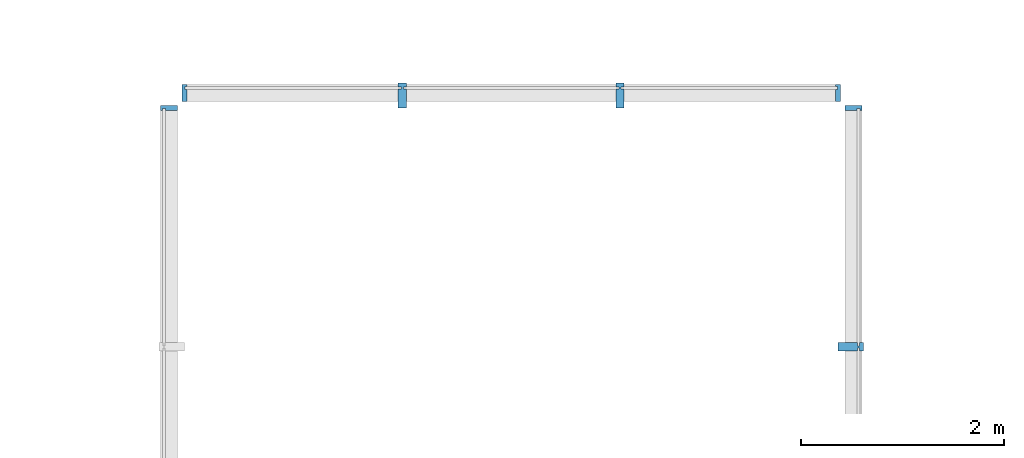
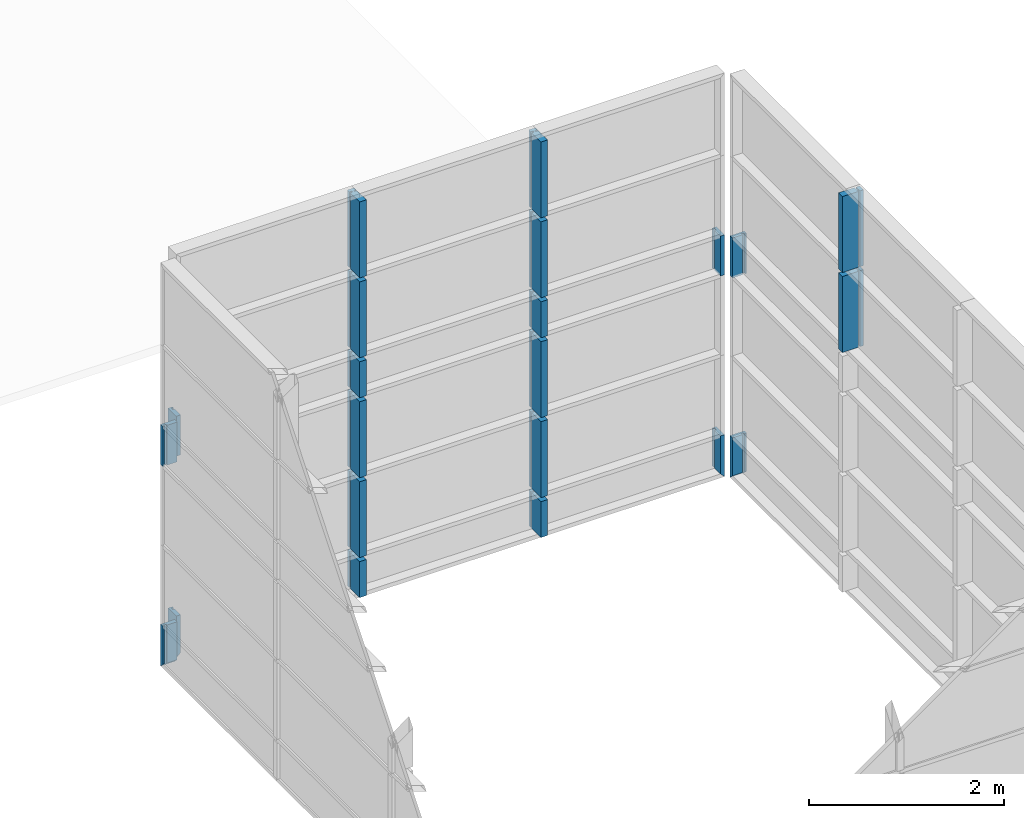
# One storey, part 15 of 19: 22 building element parts, 3 elements without a shape of their own.
"""IFC4 building model written with IfcOpenShell, lengths in millimetres."""

from ifc_helpers import new_model, entity, si_unit, converted_unit, derived_unit, direction, frame, origin_with_axes, place, context, subcontext, project, spatial, triangles, material, element, aggregate, save


model = new_model("IFC4")

# Units and contexts
model_context = context("Model", 3, precision=1e-05, world=origin_with_axes(), true_north=direction((0.0, 1.0)))
body_context = subcontext(model_context, "Body", "Model", "MODEL_VIEW")
ifc_project = project(units=[si_unit("LENGTHUNIT", "METRE", prefix="MILLI"), si_unit("AREAUNIT", "SQUARE_METRE"), si_unit("VOLUMEUNIT", "CUBIC_METRE"), converted_unit("PLANEANGLEUNIT", "DEGREE", entity("IfcLengthMeasure", 0.017453), si_unit("PLANEANGLEUNIT", "RADIAN"), dimensions=[0, 0, 0, 0, 0, 0, 0]), si_unit("SOLIDANGLEUNIT", "STERADIAN"), si_unit("MASSUNIT", "GRAM"), si_unit("TIMEUNIT", "SECOND"), si_unit("THERMODYNAMICTEMPERATUREUNIT", "DEGREE_CELSIUS"), si_unit("LUMINOUSINTENSITYUNIT", "LUMEN"), si_unit("POWERUNIT", "WATT"), derived_unit("THERMALTRANSMITTANCEUNIT", [(si_unit("POWERUNIT", "WATT"), 1), (si_unit("THERMODYNAMICTEMPERATUREUNIT", "KELVIN"), -1), (si_unit("AREAUNIT", "SQUARE_METRE"), -1)])], contexts=[model_context])

# Site, building, storey
site_placement = place(None, origin_with_axes())
site = spatial("IfcSite", under=ifc_project, at=site_placement, Name="Default Site", CompositionType="ELEMENT")
building_placement = place(site_placement, origin_with_axes())
building = spatial("IfcBuilding", under=site, at=building_placement, Name="Default Building", CompositionType="ELEMENT")
storey_placement = place(building_placement, frame((0.0, 0.0, 3000.0), z_axis=(0.0, 0.0, 1.0), x_axis=(1.0, 0.0, 0.0)))
storey = spatial("IfcBuildingStorey", under=building, at=storey_placement, Name="EG - Story", CompositionType="ELEMENT", Elevation=3000.0)

# Curtain wall, building element parts
curtain_wall_1_placement = place(storey_placement, origin_with_axes())
curtain_wall_1 = element("IfcCurtainWall", 1, at=curtain_wall_1_placement, inside=storey, Name="Fassade-011", PredefinedType="NOTDEFINED")
ifc_material = material(Name="Blech")
building_element_part_1_placement = place(curtain_wall_1_placement, frame((69381.391327, -43896.324358, 0.0), z_axis=(0.0, 0.0, 1.0), x_axis=(1.0, 0.0, 0.0)))
building_element_part_1 = element("IfcBuildingElementPart", 2, at=building_element_part_1_placement, material=ifc_material, Name="Blech", PredefinedType="NOTDEFINED", context=body_context, shape_type="Tessellation", body=[
    triangles([(15.0, 1150.325, 500.0), (133.0, 1150.325, 500.0), (15.0, 1170.325, 500.0), (133.0, 1200.325, 500.0), (-14.999, 1170.325, 500.0), (-34.999, 1200.325, 500.0), (-14.999, 1150.325, 500.0), (-34.999, 1150.325, 500.0), (15.0, 1170.325, 5.0), (15.0, 1150.325, 25.0), (133.0, 1150.325, 25.0), (133.0, 1200.325, -24.999), (-34.999, 1200.325, -24.999), (-34.999, 1150.325, 25.0), (-14.999, 1150.325, 25.0), (-14.999, 1170.325, 5.0)], [[1, 2, 3], [3, 2, 4], [3, 4, 5], [5, 4, 6], [5, 6, 7], [7, 6, 8], [3, 9, 10], [3, 10, 1], [10, 11, 2], [10, 2, 1], [2, 11, 12], [2, 12, 4], [4, 12, 13], [4, 13, 6], [6, 13, 14], [6, 14, 8], [7, 8, 14], [7, 14, 15], [15, 16, 5], [15, 5, 7], [5, 16, 9], [5, 9, 3], [16, 9, 12], [16, 12, 13], [16, 13, 14], [16, 14, 15], [11, 12, 9], [11, 9, 10]], closed=False),
])
building_element_part_2_placement = place(curtain_wall_1_placement, frame((69381.391327, -43896.324358, 0.0), z_axis=(0.0, 0.0, 1.0), x_axis=(1.0, 0.0, 0.0)))
building_element_part_2 = element("IfcBuildingElementPart", 3, at=building_element_part_2_placement, material=ifc_material, Name="Blech", PredefinedType="NOTDEFINED", context=body_context, shape_type="Tessellation", body=[
    triangles([(15.0, 1150.325, 3000.0), (133.0, 1150.325, 3000.0), (15.0, 1170.325, 3000.0), (133.0, 1200.325, 3000.0), (-14.999, 1170.325, 3000.0), (-34.999, 1200.325, 3000.0), (-14.999, 1150.325, 3000.0), (-34.999, 1150.325, 3000.0), (15.0, 1170.325, 2500.0), (15.0, 1150.325, 2500.0), (133.0, 1150.325, 2500.0), (133.0, 1200.325, 2500.0), (-34.999, 1200.325, 2500.0), (-34.999, 1150.325, 2500.0), (-14.999, 1150.325, 2500.0), (-14.999, 1170.325, 2500.0)], [[1, 2, 3], [3, 2, 4], [3, 4, 5], [5, 4, 6], [5, 6, 7], [7, 6, 8], [3, 9, 10], [3, 10, 1], [10, 11, 2], [10, 2, 1], [11, 12, 4], [11, 4, 2], [12, 13, 6], [12, 6, 4], [13, 14, 8], [13, 8, 6], [7, 8, 14], [7, 14, 15], [15, 16, 5], [15, 5, 7], [5, 16, 9], [5, 9, 3], [10, 11, 9], [9, 11, 12], [9, 12, 16], [16, 12, 13], [16, 13, 15], [15, 13, 14]], closed=False),
])
aggregate(curtain_wall_1, [building_element_part_1, building_element_part_2])

curtain_wall_2_placement = place(storey_placement, origin_with_axes())
curtain_wall_2 = element("IfcCurtainWall", 4, at=curtain_wall_2_placement, inside=storey, Name="Fassade-008", PredefinedType="NOTDEFINED")
building_element_part_3_placement = place(curtain_wall_2_placement, frame((76219.438321, -43896.324358, 0.0), z_axis=(0.0, 0.0, 1.0), x_axis=(1.0, 0.0, 0.0)))
building_element_part_3 = element("IfcBuildingElementPart", 5, at=building_element_part_3_placement, material=ifc_material, Name="Blech", PredefinedType="NOTDEFINED", context=body_context, shape_type="Tessellation", body=[
    triangles([(15.0, 1150.325, 500.0), (15.0, 1170.325, 500.0), (35.0, 1200.325, 500.0), (-14.999, 1170.325, 500.0), (-132.999, 1150.325, 500.0), (-14.999, 1150.325, 500.0), (-132.999, 1200.325, 500.0), (35.0, 1150.325, 500.0), (-14.999, 1170.325, 5.0), (15.0, 1170.325, 5.0), (15.0, 1150.325, 25.0), (35.0, 1150.325, 25.0), (35.0, 1200.325, -24.999), (-132.999, 1200.325, -24.999), (-132.999, 1150.325, 25.0), (-14.999, 1150.325, 25.0)], [[1, 2, 3], [3, 2, 4], [3, 4, 5], [5, 4, 6], [3, 5, 7], [1, 3, 8], [2, 4, 9], [2, 9, 10], [11, 1, 2], [11, 2, 10], [1, 11, 12], [1, 12, 8], [3, 8, 12], [3, 12, 13], [7, 3, 13], [7, 13, 14], [5, 7, 14], [5, 14, 15], [16, 6, 5], [16, 5, 15], [4, 6, 16], [4, 16, 9], [16, 15, 9], [9, 15, 14], [9, 14, 10], [10, 14, 13], [10, 13, 12], [10, 12, 11]], closed=False),
])
building_element_part_4_placement = place(curtain_wall_2_placement, frame((76219.438321, -43896.324358, 0.0), z_axis=(0.0, 0.0, 1.0), x_axis=(1.0, 0.0, 0.0)))
building_element_part_4 = element("IfcBuildingElementPart", 6, at=building_element_part_4_placement, material=ifc_material, Name="Blech", PredefinedType="NOTDEFINED", context=body_context, shape_type="Tessellation", body=[
    triangles([(15.0, 1150.325, 3000.0), (15.0, 1170.325, 3000.0), (35.0, 1200.325, 3000.0), (-14.999, 1170.325, 3000.0), (-132.999, 1150.325, 3000.0), (-14.999, 1150.325, 3000.0), (-132.999, 1200.325, 3000.0), (35.0, 1150.325, 3000.0), (-14.999, 1170.325, 2500.0), (15.0, 1170.325, 2500.0), (15.0, 1150.325, 2500.0), (35.0, 1150.325, 2500.0), (35.0, 1200.325, 2500.0), (-132.999, 1200.325, 2500.0), (-132.999, 1150.325, 2500.0), (-14.999, 1150.325, 2500.0)], [[1, 2, 3], [3, 2, 4], [3, 4, 5], [5, 4, 6], [3, 5, 7], [1, 3, 8], [2, 4, 9], [2, 9, 10], [11, 1, 2], [11, 2, 10], [1, 11, 12], [1, 12, 8], [13, 3, 8], [13, 8, 12], [14, 7, 3], [14, 3, 13], [15, 5, 7], [15, 7, 14], [16, 6, 5], [16, 5, 15], [4, 6, 16], [4, 16, 9], [13, 12, 11], [13, 11, 10], [13, 10, 9], [13, 9, 15], [13, 15, 14], [16, 15, 9]], closed=False),
])
building_element_part_5_placement = place(curtain_wall_2_placement, frame((76219.438321, -43896.324358, 0.0), z_axis=(0.0, 0.0, 1.0), x_axis=(1.0, 0.0, 0.0)))
building_element_part_5 = element("IfcBuildingElementPart", 7, at=building_element_part_5_placement, material=ifc_material, Name="Blech", PredefinedType="NOTDEFINED", context=body_context, shape_type="Tessellation", body=[
    triangles([(50.0, -1215.324, 3975.0), (10.0, -1215.324, 3975.0), (50.0, -1135.324, 3975.0), (10.0, -1185.324, 3975.0), (10.0, -1165.324, 3975.0), (-9.999, -1185.324, 3975.0), (-9.999, -1165.324, 3975.0), (-9.999, -1135.324, 3975.0), (-9.999, -1215.324, 3975.0), (-199.999, -1215.324, 3975.0), (-199.999, -1135.324, 3975.0), (10.0, -1135.324, 3975.0), (-9.999, -1185.324, 3025.0), (10.0, -1185.324, 3025.0), (10.0, -1215.324, 3025.0), (50.0, -1215.324, 3025.0), (50.0, -1135.324, 3025.0), (10.0, -1135.324, 3025.0), (10.0, -1165.324, 3025.0), (-9.999, -1165.324, 3025.0), (-9.999, -1135.324, 3025.0), (-199.999, -1135.324, 3025.0), (-199.999, -1215.324, 3025.0), (-9.999, -1215.324, 3025.0)], [[1, 2, 3], [3, 2, 4], [3, 4, 5], [5, 4, 6], [5, 6, 7], [8, 9, 10], [8, 10, 11], [3, 5, 12], [6, 13, 14], [6, 14, 4], [4, 14, 15], [4, 15, 2], [15, 16, 1], [15, 1, 2], [3, 1, 16], [3, 16, 17], [18, 12, 3], [18, 3, 17], [12, 18, 19], [12, 19, 5], [7, 5, 19], [7, 19, 20], [8, 7, 20], [8, 20, 21], [8, 21, 22], [8, 22, 11], [10, 11, 22], [10, 22, 23], [9, 10, 23], [9, 23, 24], [9, 24, 13], [9, 13, 6], [17, 18, 16], [16, 18, 19], [16, 19, 14], [14, 19, 20], [14, 20, 13], [24, 21, 22], [24, 22, 23], [16, 14, 15]], closed=False),
])
building_element_part_6_placement = place(curtain_wall_2_placement, frame((76219.438321, -43896.324358, 0.0), z_axis=(0.0, 0.0, 1.0), x_axis=(1.0, 0.0, 0.0)))
building_element_part_6 = element("IfcBuildingElementPart", 8, at=building_element_part_6_placement, material=ifc_material, Name="Blech", PredefinedType="NOTDEFINED", context=body_context, shape_type="Tessellation", body=[
    triangles([(50.0, -1215.324, 4975.0), (10.0, -1215.324, 4975.0), (50.0, -1135.324, 4975.0), (10.0, -1185.324, 4975.0), (10.0, -1165.324, 4975.0), (-9.999, -1185.324, 4975.0), (-9.999, -1165.324, 4975.0), (-9.999, -1135.324, 4975.0), (-9.999, -1215.324, 4975.0), (-199.999, -1215.324, 4975.0), (-199.999, -1135.324, 4975.0), (10.0, -1135.324, 4975.0), (-9.999, -1185.324, 4025.0), (10.0, -1185.324, 4025.0), (10.0, -1215.324, 4025.0), (50.0, -1215.324, 4025.0), (50.0, -1135.324, 4025.0), (10.0, -1135.324, 4025.0), (10.0, -1165.324, 4025.0), (-9.999, -1165.324, 4025.0), (-9.999, -1135.324, 4025.0), (-199.999, -1135.324, 4025.0), (-199.999, -1215.324, 4025.0), (-9.999, -1215.324, 4025.0)], [[1, 2, 3], [3, 2, 4], [3, 4, 5], [5, 4, 6], [5, 6, 7], [8, 9, 10], [8, 10, 11], [3, 5, 12], [6, 13, 14], [6, 14, 4], [4, 14, 15], [4, 15, 2], [15, 16, 1], [15, 1, 2], [3, 1, 16], [3, 16, 17], [18, 12, 3], [18, 3, 17], [12, 18, 19], [12, 19, 5], [7, 5, 19], [7, 19, 20], [8, 7, 20], [8, 20, 21], [8, 21, 22], [8, 22, 11], [10, 11, 22], [10, 22, 23], [9, 10, 23], [9, 23, 24], [9, 24, 13], [9, 13, 6], [17, 18, 16], [16, 18, 19], [16, 19, 14], [14, 19, 20], [14, 20, 13], [24, 21, 22], [24, 22, 23], [16, 14, 15]], closed=False),
])
aggregate(curtain_wall_2, [building_element_part_3, building_element_part_4, building_element_part_5, building_element_part_6])

curtain_wall_3_placement = place(storey_placement, origin_with_axes())
curtain_wall_3 = element("IfcCurtainWall", 9, at=curtain_wall_3_placement, inside=storey, Name="Fassade-012", PredefinedType="NOTDEFINED")
building_element_part_7_placement = place(curtain_wall_3_placement, frame((74946.430489, -42520.999636, -4.5e-05), z_axis=(0.0, 0.0, 1.0), x_axis=(1.0, 0.0, 0.0)))
building_element_part_7 = element("IfcBuildingElementPart", 10, at=building_element_part_7_placement, material=ifc_material, Name="Blech", PredefinedType="NOTDEFINED", context=body_context, shape_type="Tessellation", body=[
    triangles([(1068.008, 15.0, 500.0), (1068.008, -14.999, 500.0), (1098.008, -132.999, 500.0), (1098.008, 35.0, 500.0), (1048.008, 35.0, 500.0), (1048.008, 15.0, 500.0), (1048.008, -14.999, 500.0), (1048.008, -132.999, 500.0), (1068.008, -14.999, 5.0), (1048.008, -14.999, 25.0), (1048.008, -132.999, 25.0), (1098.008, -132.999, -24.999), (1098.008, 35.0, -24.999), (1048.008, 35.0, 25.0), (1048.008, 15.0, 25.0), (1068.008, 15.0, 5.0)], [[1, 2, 3], [1, 3, 4], [1, 4, 5], [1, 5, 6], [7, 8, 3], [7, 3, 2], [2, 9, 10], [2, 10, 7], [10, 11, 8], [10, 8, 7], [8, 11, 12], [8, 12, 3], [3, 12, 13], [3, 13, 4], [4, 13, 14], [4, 14, 5], [6, 5, 14], [6, 14, 15], [15, 16, 1], [15, 1, 6], [1, 16, 9], [1, 9, 2], [16, 9, 12], [16, 12, 13], [16, 13, 14], [16, 14, 15], [10, 11, 12], [10, 12, 9]], closed=False),
])
building_element_part_8_placement = place(curtain_wall_3_placement, frame((74946.430489, -42520.999636, -4.5e-05), z_axis=(0.0, 0.0, 1.0), x_axis=(1.0, 0.0, 0.0)))
building_element_part_8 = element("IfcBuildingElementPart", 11, at=building_element_part_8_placement, material=ifc_material, Name="Blech", PredefinedType="NOTDEFINED", context=body_context, shape_type="Tessellation", body=[
    triangles([(-1033.007, 10.0, 475.0), (-1033.007, 50.0, 475.0), (-1063.007, 10.0, 475.0), (-1083.007, 10.0, 475.0), (-1063.007, -9.999, 475.0), (-1033.007, -199.999, 475.0), (-1033.007, -9.999, 475.0), (-1113.007, 50.0, 475.0), (-1113.007, 10.0, 475.0), (-1083.007, -9.999, 475.0), (-1113.007, -9.999, 475.0), (-1113.007, -199.999, 475.0), (-1083.007, -9.999, 25.0), (-1113.007, -9.999, 25.0), (-1113.007, -199.999, 25.0), (-1033.007, -199.999, 25.0), (-1033.007, -9.999, 25.0), (-1063.007, -9.999, 25.0), (-1063.007, 10.0, 25.0), (-1033.007, 10.0, 25.0), (-1033.007, 50.0, 25.0), (-1113.007, 50.0, 25.0), (-1113.007, 10.0, 25.0), (-1083.007, 10.0, 25.0)], [[1, 2, 3], [3, 2, 4], [3, 4, 5], [5, 4, 6], [5, 6, 7], [8, 9, 4], [8, 4, 2], [6, 4, 10], [6, 10, 11], [6, 11, 12], [11, 10, 13], [11, 13, 14], [11, 14, 15], [11, 15, 12], [12, 15, 16], [12, 16, 6], [7, 6, 16], [7, 16, 17], [7, 17, 18], [7, 18, 5], [5, 18, 19], [5, 19, 3], [1, 3, 19], [1, 19, 20], [20, 21, 2], [20, 2, 1], [2, 21, 22], [2, 22, 8], [23, 9, 8], [23, 8, 22], [4, 9, 23], [4, 23, 24], [10, 4, 24], [10, 24, 13], [17, 16, 18], [18, 16, 13], [18, 13, 19], [19, 13, 21], [19, 21, 20], [15, 14, 13], [15, 13, 16], [21, 13, 24], [21, 24, 23], [21, 23, 22]], closed=False),
])
building_element_part_9_placement = place(curtain_wall_3_placement, frame((74946.430489, -42520.999636, -4.5e-05), z_axis=(0.0, 0.0, 1.0), x_axis=(1.0, 0.0, 0.0)))
building_element_part_9 = element("IfcBuildingElementPart", 12, at=building_element_part_9_placement, material=ifc_material, Name="Blech", PredefinedType="NOTDEFINED", context=body_context, shape_type="Tessellation", body=[
    triangles([(-5360.038, 15.0, 500.0), (-5360.038, -14.999, 500.0), (-5390.038, -132.999, 500.0), (-5390.038, 35.0, 500.0), (-5340.038, 35.0, 500.0), (-5340.038, 15.0, 500.0), (-5340.038, -132.999, 500.0), (-5340.038, -14.999, 500.0), (-5360.038, -14.999, 5.0), (-5360.038, 15.0, 5.0), (-5340.038, 15.0, 25.0), (-5340.038, 35.0, 25.0), (-5390.038, 35.0, -24.999), (-5390.038, -132.999, -24.999), (-5340.038, -132.999, 25.0), (-5340.038, -14.999, 25.0)], [[1, 2, 3], [1, 3, 4], [1, 4, 5], [1, 5, 6], [7, 3, 2], [7, 2, 8], [1, 2, 9], [1, 9, 10], [11, 6, 1], [11, 1, 10], [6, 11, 12], [6, 12, 5], [4, 5, 12], [4, 12, 13], [3, 4, 13], [3, 13, 14], [7, 3, 14], [7, 14, 15], [16, 8, 7], [16, 7, 15], [2, 8, 16], [2, 16, 9], [16, 15, 9], [9, 15, 14], [9, 14, 10], [10, 14, 13], [10, 13, 12], [10, 12, 11]], closed=False),
])
building_element_part_10_placement = place(curtain_wall_3_placement, frame((74946.430489, -42520.999636, -4.5e-05), z_axis=(0.0, 0.0, 1.0), x_axis=(1.0, 0.0, 0.0)))
building_element_part_10 = element("IfcBuildingElementPart", 13, at=building_element_part_10_placement, material=ifc_material, Name="Blech", PredefinedType="NOTDEFINED", context=body_context, shape_type="Tessellation", body=[
    triangles([(-3179.022, 10.0, 475.0), (-3179.022, 50.0, 475.0), (-3209.022, 10.0, 475.0), (-3229.022, 10.0, 475.0), (-3209.022, -9.999, 475.0), (-3179.022, -199.999, 475.0), (-3179.022, -9.999, 475.0), (-3259.022, 50.0, 475.0), (-3259.022, 10.0, 475.0), (-3229.022, -9.999, 475.0), (-3259.022, -9.999, 475.0), (-3259.022, -199.999, 475.0), (-3229.022, -9.999, 25.0), (-3259.022, -9.999, 25.0), (-3259.022, -199.999, 25.0), (-3179.022, -199.999, 25.0), (-3179.022, -9.999, 25.0), (-3209.022, -9.999, 25.0), (-3209.022, 10.0, 25.0), (-3179.022, 10.0, 25.0), (-3179.022, 50.0, 25.0), (-3259.022, 50.0, 25.0), (-3259.022, 10.0, 25.0), (-3229.022, 10.0, 25.0)], [[1, 2, 3], [3, 2, 4], [3, 4, 5], [5, 4, 6], [5, 6, 7], [8, 9, 4], [8, 4, 2], [6, 4, 10], [6, 10, 11], [6, 11, 12], [11, 10, 13], [11, 13, 14], [11, 14, 15], [11, 15, 12], [12, 15, 16], [12, 16, 6], [7, 6, 16], [7, 16, 17], [7, 17, 18], [7, 18, 5], [5, 18, 19], [5, 19, 3], [1, 3, 19], [1, 19, 20], [20, 21, 2], [20, 2, 1], [2, 21, 22], [2, 22, 8], [23, 9, 8], [23, 8, 22], [4, 9, 23], [4, 23, 24], [10, 4, 24], [10, 24, 13], [17, 16, 18], [18, 16, 13], [18, 13, 19], [19, 13, 21], [19, 21, 20], [15, 14, 13], [15, 13, 16], [21, 13, 24], [21, 24, 23], [21, 23, 22]], closed=False),
])
building_element_part_11_placement = place(curtain_wall_3_placement, frame((74946.430489, -42520.999636, -4.5e-05), z_axis=(0.0, 0.0, 1.0), x_axis=(1.0, 0.0, 0.0)))
building_element_part_11 = element("IfcBuildingElementPart", 14, at=building_element_part_11_placement, material=ifc_material, Name="Blech", PredefinedType="NOTDEFINED", context=body_context, shape_type="Tessellation", body=[
    triangles([(-1033.007, 10.0, 1475.0), (-1033.007, 50.0, 1475.0), (-1063.007, 10.0, 1475.0), (-1083.007, 10.0, 1475.0), (-1063.007, -9.999, 1475.0), (-1033.007, -199.999, 1475.0), (-1033.007, -9.999, 1475.0), (-1113.007, 50.0, 1475.0), (-1113.007, 10.0, 1475.0), (-1083.007, -9.999, 1475.0), (-1113.007, -9.999, 1475.0), (-1113.007, -199.999, 1475.0), (-1083.007, -9.999, 525.0), (-1113.007, -9.999, 525.0), (-1113.007, -199.999, 525.0), (-1033.007, -199.999, 525.0), (-1033.007, -9.999, 525.0), (-1063.007, -9.999, 525.0), (-1063.007, 10.0, 525.0), (-1033.007, 10.0, 525.0), (-1033.007, 50.0, 525.0), (-1113.007, 50.0, 525.0), (-1113.007, 10.0, 525.0), (-1083.007, 10.0, 525.0)], [[1, 2, 3], [3, 2, 4], [3, 4, 5], [5, 4, 6], [5, 6, 7], [8, 9, 4], [8, 4, 2], [6, 4, 10], [6, 10, 11], [6, 11, 12], [11, 10, 13], [11, 13, 14], [11, 14, 15], [11, 15, 12], [12, 15, 16], [12, 16, 6], [7, 6, 16], [7, 16, 17], [7, 17, 18], [7, 18, 5], [5, 18, 19], [5, 19, 3], [1, 3, 19], [1, 19, 20], [20, 21, 2], [20, 2, 1], [2, 21, 22], [2, 22, 8], [23, 9, 8], [23, 8, 22], [4, 9, 23], [4, 23, 24], [10, 4, 24], [10, 24, 13], [17, 16, 18], [18, 16, 13], [18, 13, 19], [19, 13, 21], [19, 21, 20], [15, 14, 13], [15, 13, 16], [21, 13, 24], [21, 24, 23], [21, 23, 22]], closed=False),
])
building_element_part_12_placement = place(curtain_wall_3_placement, frame((74946.430489, -42520.999636, -4.5e-05), z_axis=(0.0, 0.0, 1.0), x_axis=(1.0, 0.0, 0.0)))
building_element_part_12 = element("IfcBuildingElementPart", 15, at=building_element_part_12_placement, material=ifc_material, Name="Blech", PredefinedType="NOTDEFINED", context=body_context, shape_type="Tessellation", body=[
    triangles([(-3179.022, 10.0, 1475.0), (-3179.022, 50.0, 1475.0), (-3209.022, 10.0, 1475.0), (-3229.022, 10.0, 1475.0), (-3209.022, -9.999, 1475.0), (-3179.022, -199.999, 1475.0), (-3179.022, -9.999, 1475.0), (-3259.022, 50.0, 1475.0), (-3259.022, 10.0, 1475.0), (-3229.022, -9.999, 1475.0), (-3259.022, -9.999, 1475.0), (-3259.022, -199.999, 1475.0), (-3229.022, -9.999, 525.0), (-3259.022, -9.999, 525.0), (-3259.022, -199.999, 525.0), (-3179.022, -199.999, 525.0), (-3179.022, -9.999, 525.0), (-3209.022, -9.999, 525.0), (-3209.022, 10.0, 525.0), (-3179.022, 10.0, 525.0), (-3179.022, 50.0, 525.0), (-3259.022, 50.0, 525.0), (-3259.022, 10.0, 525.0), (-3229.022, 10.0, 525.0)], [[1, 2, 3], [3, 2, 4], [3, 4, 5], [5, 4, 6], [5, 6, 7], [8, 9, 4], [8, 4, 2], [6, 4, 10], [6, 10, 11], [6, 11, 12], [11, 10, 13], [11, 13, 14], [11, 14, 15], [11, 15, 12], [12, 15, 16], [12, 16, 6], [7, 6, 16], [7, 16, 17], [7, 17, 18], [7, 18, 5], [5, 18, 19], [5, 19, 3], [1, 3, 19], [1, 19, 20], [20, 21, 2], [20, 2, 1], [2, 21, 22], [2, 22, 8], [23, 9, 8], [23, 8, 22], [4, 9, 23], [4, 23, 24], [10, 4, 24], [10, 24, 13], [17, 16, 18], [18, 16, 13], [18, 13, 19], [19, 13, 21], [19, 21, 20], [15, 14, 13], [15, 13, 16], [21, 13, 24], [21, 24, 23], [21, 23, 22]], closed=False),
])
building_element_part_13_placement = place(curtain_wall_3_placement, frame((74946.430489, -42520.999636, -4.5e-05), z_axis=(0.0, 0.0, 1.0), x_axis=(1.0, 0.0, 0.0)))
building_element_part_13 = element("IfcBuildingElementPart", 16, at=building_element_part_13_placement, material=ifc_material, Name="Blech", PredefinedType="NOTDEFINED", context=body_context, shape_type="Tessellation", body=[
    triangles([(-1033.007, 10.0, 2475.0), (-1033.007, 50.0, 2475.0), (-1063.007, 10.0, 2475.0), (-1083.007, 10.0, 2475.0), (-1063.007, -9.999, 2475.0), (-1033.007, -199.999, 2475.0), (-1033.007, -9.999, 2475.0), (-1113.007, 50.0, 2475.0), (-1113.007, 10.0, 2475.0), (-1083.007, -9.999, 2475.0), (-1113.007, -9.999, 2475.0), (-1113.007, -199.999, 2475.0), (-1083.007, -9.999, 1525.0), (-1113.007, -9.999, 1525.0), (-1113.007, -199.999, 1525.0), (-1033.007, -199.999, 1525.0), (-1033.007, -9.999, 1525.0), (-1063.007, -9.999, 1525.0), (-1063.007, 10.0, 1525.0), (-1033.007, 10.0, 1525.0), (-1033.007, 50.0, 1525.0), (-1113.007, 50.0, 1525.0), (-1113.007, 10.0, 1525.0), (-1083.007, 10.0, 1525.0)], [[1, 2, 3], [3, 2, 4], [3, 4, 5], [5, 4, 6], [5, 6, 7], [8, 9, 4], [8, 4, 2], [6, 4, 10], [6, 10, 11], [6, 11, 12], [11, 10, 13], [11, 13, 14], [11, 14, 15], [11, 15, 12], [12, 15, 16], [12, 16, 6], [7, 6, 16], [7, 16, 17], [7, 17, 18], [7, 18, 5], [5, 18, 19], [5, 19, 3], [1, 3, 19], [1, 19, 20], [20, 21, 2], [20, 2, 1], [2, 21, 22], [2, 22, 8], [23, 9, 8], [23, 8, 22], [4, 9, 23], [4, 23, 24], [10, 4, 24], [10, 24, 13], [17, 16, 18], [18, 16, 13], [18, 13, 19], [19, 13, 21], [19, 21, 20], [15, 14, 13], [15, 13, 16], [21, 13, 24], [21, 24, 23], [21, 23, 22]], closed=False),
])
building_element_part_14_placement = place(curtain_wall_3_placement, frame((74946.430489, -42520.999636, -4.5e-05), z_axis=(0.0, 0.0, 1.0), x_axis=(1.0, 0.0, 0.0)))
building_element_part_14 = element("IfcBuildingElementPart", 17, at=building_element_part_14_placement, material=ifc_material, Name="Blech", PredefinedType="NOTDEFINED", context=body_context, shape_type="Tessellation", body=[
    triangles([(-3179.022, 10.0, 2475.0), (-3179.022, 50.0, 2475.0), (-3209.022, 10.0, 2475.0), (-3229.022, 10.0, 2475.0), (-3209.022, -9.999, 2475.0), (-3179.022, -199.999, 2475.0), (-3179.022, -9.999, 2475.0), (-3259.022, 50.0, 2475.0), (-3259.022, 10.0, 2475.0), (-3229.022, -9.999, 2475.0), (-3259.022, -9.999, 2475.0), (-3259.022, -199.999, 2475.0), (-3229.022, -9.999, 1525.0), (-3259.022, -9.999, 1525.0), (-3259.022, -199.999, 1525.0), (-3179.022, -199.999, 1525.0), (-3179.022, -9.999, 1525.0), (-3209.022, -9.999, 1525.0), (-3209.022, 10.0, 1525.0), (-3179.022, 10.0, 1525.0), (-3179.022, 50.0, 1525.0), (-3259.022, 50.0, 1525.0), (-3259.022, 10.0, 1525.0), (-3229.022, 10.0, 1525.0)], [[1, 2, 3], [3, 2, 4], [3, 4, 5], [5, 4, 6], [5, 6, 7], [8, 9, 4], [8, 4, 2], [6, 4, 10], [6, 10, 11], [6, 11, 12], [11, 10, 13], [11, 13, 14], [11, 14, 15], [11, 15, 12], [12, 15, 16], [12, 16, 6], [7, 6, 16], [7, 16, 17], [7, 17, 18], [7, 18, 5], [5, 18, 19], [5, 19, 3], [1, 3, 19], [1, 19, 20], [20, 21, 2], [20, 2, 1], [2, 21, 22], [2, 22, 8], [23, 9, 8], [23, 8, 22], [4, 9, 23], [4, 23, 24], [10, 4, 24], [10, 24, 13], [17, 16, 18], [18, 16, 13], [18, 13, 19], [19, 13, 21], [19, 21, 20], [15, 14, 13], [15, 13, 16], [21, 13, 24], [21, 24, 23], [21, 23, 22]], closed=False),
])
building_element_part_15_placement = place(curtain_wall_3_placement, frame((74946.430489, -42520.999636, -4.5e-05), z_axis=(0.0, 0.0, 1.0), x_axis=(1.0, 0.0, 0.0)))
building_element_part_15 = element("IfcBuildingElementPart", 18, at=building_element_part_15_placement, material=ifc_material, Name="Blech", PredefinedType="NOTDEFINED", context=body_context, shape_type="Tessellation", body=[
    triangles([(1068.008, 15.0, 3000.0), (1068.008, -14.999, 3000.0), (1098.008, -132.999, 3000.0), (1098.008, 35.0, 3000.0), (1048.008, 35.0, 3000.0), (1048.008, 15.0, 3000.0), (1048.008, -14.999, 3000.0), (1048.008, -132.999, 3000.0), (1068.008, -14.999, 2500.0), (1048.008, -14.999, 2500.0), (1048.008, -132.999, 2500.0), (1098.008, -132.999, 2500.0), (1098.008, 35.0, 2500.0), (1048.008, 35.0, 2500.0), (1048.008, 15.0, 2500.0), (1068.008, 15.0, 2500.0)], [[1, 2, 3], [1, 3, 4], [1, 4, 5], [1, 5, 6], [7, 8, 3], [7, 3, 2], [2, 9, 10], [2, 10, 7], [10, 11, 8], [10, 8, 7], [11, 12, 3], [11, 3, 8], [12, 13, 4], [12, 4, 3], [13, 14, 5], [13, 5, 4], [6, 5, 14], [6, 14, 15], [15, 16, 1], [15, 1, 6], [1, 16, 9], [1, 9, 2], [16, 9, 12], [16, 12, 13], [16, 13, 14], [16, 14, 15], [10, 11, 12], [10, 12, 9]], closed=False),
])
building_element_part_16_placement = place(curtain_wall_3_placement, frame((74946.430489, -42520.999636, -4.5e-05), z_axis=(0.0, 0.0, 1.0), x_axis=(1.0, 0.0, 0.0)))
building_element_part_16 = element("IfcBuildingElementPart", 19, at=building_element_part_16_placement, material=ifc_material, Name="Blech", PredefinedType="NOTDEFINED", context=body_context, shape_type="Tessellation", body=[
    triangles([(-1033.007, 10.0, 2975.0), (-1033.007, 50.0, 2975.0), (-1063.007, 10.0, 2975.0), (-1083.007, 10.0, 2975.0), (-1063.007, -9.999, 2975.0), (-1033.007, -199.999, 2975.0), (-1033.007, -9.999, 2975.0), (-1113.007, 50.0, 2975.0), (-1113.007, 10.0, 2975.0), (-1083.007, -9.999, 2975.0), (-1113.007, -9.999, 2975.0), (-1113.007, -199.999, 2975.0), (-1083.007, -9.999, 2525.0), (-1113.007, -9.999, 2525.0), (-1113.007, -199.999, 2525.0), (-1033.007, -199.999, 2525.0), (-1033.007, -9.999, 2525.0), (-1063.007, -9.999, 2525.0), (-1063.007, 10.0, 2525.0), (-1033.007, 10.0, 2525.0), (-1033.007, 50.0, 2525.0), (-1113.007, 50.0, 2525.0), (-1113.007, 10.0, 2525.0), (-1083.007, 10.0, 2525.0)], [[1, 2, 3], [3, 2, 4], [3, 4, 5], [5, 4, 6], [5, 6, 7], [8, 9, 4], [8, 4, 2], [6, 4, 10], [6, 10, 11], [6, 11, 12], [11, 10, 13], [11, 13, 14], [11, 14, 15], [11, 15, 12], [12, 15, 16], [12, 16, 6], [7, 6, 16], [7, 16, 17], [7, 17, 18], [7, 18, 5], [5, 18, 19], [5, 19, 3], [1, 3, 19], [1, 19, 20], [20, 21, 2], [20, 2, 1], [2, 21, 22], [2, 22, 8], [23, 9, 8], [23, 8, 22], [4, 9, 23], [4, 23, 24], [10, 4, 24], [10, 24, 13], [17, 16, 18], [18, 16, 13], [18, 13, 19], [19, 13, 21], [19, 21, 20], [15, 14, 13], [15, 13, 16], [21, 13, 24], [21, 24, 23], [21, 23, 22]], closed=False),
])
building_element_part_17_placement = place(curtain_wall_3_placement, frame((74946.430489, -42520.999636, -4.5e-05), z_axis=(0.0, 0.0, 1.0), x_axis=(1.0, 0.0, 0.0)))
building_element_part_17 = element("IfcBuildingElementPart", 20, at=building_element_part_17_placement, material=ifc_material, Name="Blech", PredefinedType="NOTDEFINED", context=body_context, shape_type="Tessellation", body=[
    triangles([(-5360.038, 15.0, 3000.0), (-5360.038, -14.999, 3000.0), (-5390.038, -132.999, 3000.0), (-5390.038, 35.0, 3000.0), (-5340.038, 35.0, 3000.0), (-5340.038, 15.0, 3000.0), (-5340.038, -132.999, 3000.0), (-5340.038, -14.999, 3000.0), (-5360.038, -14.999, 2500.0), (-5360.038, 15.0, 2500.0), (-5340.038, 15.0, 2500.0), (-5340.038, 35.0, 2500.0), (-5390.038, 35.0, 2500.0), (-5390.038, -132.999, 2500.0), (-5340.038, -132.999, 2500.0), (-5340.038, -14.999, 2500.0)], [[1, 2, 3], [1, 3, 4], [1, 4, 5], [1, 5, 6], [7, 3, 2], [7, 2, 8], [1, 2, 9], [1, 9, 10], [11, 6, 1], [11, 1, 10], [6, 11, 12], [6, 12, 5], [13, 4, 5], [13, 5, 12], [14, 3, 4], [14, 4, 13], [15, 7, 3], [15, 3, 14], [16, 8, 7], [16, 7, 15], [2, 8, 16], [2, 16, 9], [16, 15, 9], [9, 15, 14], [9, 14, 10], [10, 14, 13], [10, 13, 12], [10, 12, 11]], closed=False),
])
building_element_part_18_placement = place(curtain_wall_3_placement, frame((74946.430489, -42520.999636, -4.5e-05), z_axis=(0.0, 0.0, 1.0), x_axis=(1.0, 0.0, 0.0)))
building_element_part_18 = element("IfcBuildingElementPart", 21, at=building_element_part_18_placement, material=ifc_material, Name="Blech", PredefinedType="NOTDEFINED", context=body_context, shape_type="Tessellation", body=[
    triangles([(-3179.022, 10.0, 2975.0), (-3179.022, 50.0, 2975.0), (-3209.022, 10.0, 2975.0), (-3229.022, 10.0, 2975.0), (-3209.022, -9.999, 2975.0), (-3179.022, -199.999, 2975.0), (-3179.022, -9.999, 2975.0), (-3259.022, 50.0, 2975.0), (-3259.022, 10.0, 2975.0), (-3229.022, -9.999, 2975.0), (-3259.022, -9.999, 2975.0), (-3259.022, -199.999, 2975.0), (-3229.022, -9.999, 2525.0), (-3259.022, -9.999, 2525.0), (-3259.022, -199.999, 2525.0), (-3179.022, -199.999, 2525.0), (-3179.022, -9.999, 2525.0), (-3209.022, -9.999, 2525.0), (-3209.022, 10.0, 2525.0), (-3179.022, 10.0, 2525.0), (-3179.022, 50.0, 2525.0), (-3259.022, 50.0, 2525.0), (-3259.022, 10.0, 2525.0), (-3229.022, 10.0, 2525.0)], [[1, 2, 3], [3, 2, 4], [3, 4, 5], [5, 4, 6], [5, 6, 7], [8, 9, 4], [8, 4, 2], [6, 4, 10], [6, 10, 11], [6, 11, 12], [11, 10, 13], [11, 13, 14], [11, 14, 15], [11, 15, 12], [12, 15, 16], [12, 16, 6], [7, 6, 16], [7, 16, 17], [7, 17, 18], [7, 18, 5], [5, 18, 19], [5, 19, 3], [1, 3, 19], [1, 19, 20], [20, 21, 2], [20, 2, 1], [2, 21, 22], [2, 22, 8], [23, 9, 8], [23, 8, 22], [4, 9, 23], [4, 23, 24], [10, 4, 24], [10, 24, 13], [17, 16, 18], [18, 16, 13], [18, 13, 19], [19, 13, 21], [19, 21, 20], [15, 14, 13], [15, 13, 16], [21, 13, 24], [21, 24, 23], [21, 23, 22]], closed=False),
])
building_element_part_19_placement = place(curtain_wall_3_placement, frame((74946.430489, -42520.999636, -4.5e-05), z_axis=(0.0, 0.0, 1.0), x_axis=(1.0, 0.0, 0.0)))
building_element_part_19 = element("IfcBuildingElementPart", 22, at=building_element_part_19_placement, material=ifc_material, Name="Blech", PredefinedType="NOTDEFINED", context=body_context, shape_type="Tessellation", body=[
    triangles([(-1033.007, 10.0, 3975.0), (-1033.007, 50.0, 3975.0), (-1063.007, 10.0, 3975.0), (-1083.007, 10.0, 3975.0), (-1063.007, -9.999, 3975.0), (-1033.007, -199.999, 3975.0), (-1033.007, -9.999, 3975.0), (-1113.007, 50.0, 3975.0), (-1113.007, 10.0, 3975.0), (-1083.007, -9.999, 3975.0), (-1113.007, -9.999, 3975.0), (-1113.007, -199.999, 3975.0), (-1083.007, -9.999, 3025.0), (-1113.007, -9.999, 3025.0), (-1113.007, -199.999, 3025.0), (-1033.007, -199.999, 3025.0), (-1033.007, -9.999, 3025.0), (-1063.007, -9.999, 3025.0), (-1063.007, 10.0, 3025.0), (-1033.007, 10.0, 3025.0), (-1033.007, 50.0, 3025.0), (-1113.007, 50.0, 3025.0), (-1113.007, 10.0, 3025.0), (-1083.007, 10.0, 3025.0)], [[1, 2, 3], [3, 2, 4], [3, 4, 5], [5, 4, 6], [5, 6, 7], [8, 9, 4], [8, 4, 2], [6, 4, 10], [6, 10, 11], [6, 11, 12], [11, 10, 13], [11, 13, 14], [11, 14, 15], [11, 15, 12], [12, 15, 16], [12, 16, 6], [7, 6, 16], [7, 16, 17], [7, 17, 18], [7, 18, 5], [5, 18, 19], [5, 19, 3], [1, 3, 19], [1, 19, 20], [20, 21, 2], [20, 2, 1], [2, 21, 22], [2, 22, 8], [23, 9, 8], [23, 8, 22], [4, 9, 23], [4, 23, 24], [10, 4, 24], [10, 24, 13], [17, 16, 18], [18, 16, 13], [18, 13, 19], [19, 13, 21], [19, 21, 20], [15, 14, 13], [15, 13, 16], [21, 13, 24], [21, 24, 23], [21, 23, 22]], closed=False),
])
building_element_part_20_placement = place(curtain_wall_3_placement, frame((74946.430489, -42520.999636, -4.5e-05), z_axis=(0.0, 0.0, 1.0), x_axis=(1.0, 0.0, 0.0)))
building_element_part_20 = element("IfcBuildingElementPart", 23, at=building_element_part_20_placement, material=ifc_material, Name="Blech", PredefinedType="NOTDEFINED", context=body_context, shape_type="Tessellation", body=[
    triangles([(-3179.022, 10.0, 3975.0), (-3179.022, 50.0, 3975.0), (-3209.022, 10.0, 3975.0), (-3229.022, 10.0, 3975.0), (-3209.022, -9.999, 3975.0), (-3179.022, -199.999, 3975.0), (-3179.022, -9.999, 3975.0), (-3259.022, 50.0, 3975.0), (-3259.022, 10.0, 3975.0), (-3229.022, -9.999, 3975.0), (-3259.022, -9.999, 3975.0), (-3259.022, -199.999, 3975.0), (-3229.022, -9.999, 3025.0), (-3259.022, -9.999, 3025.0), (-3259.022, -199.999, 3025.0), (-3179.022, -199.999, 3025.0), (-3179.022, -9.999, 3025.0), (-3209.022, -9.999, 3025.0), (-3209.022, 10.0, 3025.0), (-3179.022, 10.0, 3025.0), (-3179.022, 50.0, 3025.0), (-3259.022, 50.0, 3025.0), (-3259.022, 10.0, 3025.0), (-3229.022, 10.0, 3025.0)], [[1, 2, 3], [3, 2, 4], [3, 4, 5], [5, 4, 6], [5, 6, 7], [8, 9, 4], [8, 4, 2], [6, 4, 10], [6, 10, 11], [6, 11, 12], [11, 10, 13], [11, 13, 14], [11, 14, 15], [11, 15, 12], [12, 15, 16], [12, 16, 6], [7, 6, 16], [7, 16, 17], [7, 17, 18], [7, 18, 5], [5, 18, 19], [5, 19, 3], [1, 3, 19], [1, 19, 20], [20, 21, 2], [20, 2, 1], [2, 21, 22], [2, 22, 8], [23, 9, 8], [23, 8, 22], [4, 9, 23], [4, 23, 24], [10, 4, 24], [10, 24, 13], [17, 16, 18], [18, 16, 13], [18, 13, 19], [19, 13, 21], [19, 21, 20], [15, 14, 13], [15, 13, 16], [21, 13, 24], [21, 24, 23], [21, 23, 22]], closed=False),
])
building_element_part_21_placement = place(curtain_wall_3_placement, frame((74946.430489, -42520.999636, -4.5e-05), z_axis=(0.0, 0.0, 1.0), x_axis=(1.0, 0.0, 0.0)))
building_element_part_21 = element("IfcBuildingElementPart", 24, at=building_element_part_21_placement, material=ifc_material, Name="Blech", PredefinedType="NOTDEFINED", context=body_context, shape_type="Tessellation", body=[
    triangles([(-1033.007, 10.0, 4975.0), (-1033.007, 50.0, 4975.0), (-1063.007, 10.0, 4975.0), (-1083.007, 10.0, 4975.0), (-1063.007, -9.999, 4975.0), (-1033.007, -199.999, 4975.0), (-1033.007, -9.999, 4975.0), (-1113.007, 50.0, 4975.0), (-1113.007, 10.0, 4975.0), (-1083.007, -9.999, 4975.0), (-1113.007, -9.999, 4975.0), (-1113.007, -199.999, 4975.0), (-1083.007, -9.999, 4025.0), (-1113.007, -9.999, 4025.0), (-1113.007, -199.999, 4025.0), (-1033.007, -199.999, 4025.0), (-1033.007, -9.999, 4025.0), (-1063.007, -9.999, 4025.0), (-1063.007, 10.0, 4025.0), (-1033.007, 10.0, 4025.0), (-1033.007, 50.0, 4025.0), (-1113.007, 50.0, 4025.0), (-1113.007, 10.0, 4025.0), (-1083.007, 10.0, 4025.0)], [[1, 2, 3], [3, 2, 4], [3, 4, 5], [5, 4, 6], [5, 6, 7], [8, 9, 4], [8, 4, 2], [6, 4, 10], [6, 10, 11], [6, 11, 12], [11, 10, 13], [11, 13, 14], [11, 14, 15], [11, 15, 12], [12, 15, 16], [12, 16, 6], [7, 6, 16], [7, 16, 17], [7, 17, 18], [7, 18, 5], [5, 18, 19], [5, 19, 3], [1, 3, 19], [1, 19, 20], [20, 21, 2], [20, 2, 1], [2, 21, 22], [2, 22, 8], [23, 9, 8], [23, 8, 22], [4, 9, 23], [4, 23, 24], [10, 4, 24], [10, 24, 13], [17, 16, 18], [18, 16, 13], [18, 13, 19], [19, 13, 21], [19, 21, 20], [15, 14, 13], [15, 13, 16], [21, 13, 24], [21, 24, 23], [21, 23, 22]], closed=False),
])
building_element_part_22_placement = place(curtain_wall_3_placement, frame((74946.430489, -42520.999636, -4.5e-05), z_axis=(0.0, 0.0, 1.0), x_axis=(1.0, 0.0, 0.0)))
building_element_part_22 = element("IfcBuildingElementPart", 25, at=building_element_part_22_placement, material=ifc_material, Name="Blech", PredefinedType="NOTDEFINED", context=body_context, shape_type="Tessellation", body=[
    triangles([(-3179.022, 10.0, 4975.0), (-3179.022, 50.0, 4975.0), (-3209.022, 10.0, 4975.0), (-3229.022, 10.0, 4975.0), (-3209.022, -9.999, 4975.0), (-3179.022, -199.999, 4975.0), (-3179.022, -9.999, 4975.0), (-3259.022, 50.0, 4975.0), (-3259.022, 10.0, 4975.0), (-3229.022, -9.999, 4975.0), (-3259.022, -9.999, 4975.0), (-3259.022, -199.999, 4975.0), (-3229.022, -9.999, 4025.0), (-3259.022, -9.999, 4025.0), (-3259.022, -199.999, 4025.0), (-3179.022, -199.999, 4025.0), (-3179.022, -9.999, 4025.0), (-3209.022, -9.999, 4025.0), (-3209.022, 10.0, 4025.0), (-3179.022, 10.0, 4025.0), (-3179.022, 50.0, 4025.0), (-3259.022, 50.0, 4025.0), (-3259.022, 10.0, 4025.0), (-3229.022, 10.0, 4025.0)], [[1, 2, 3], [3, 2, 4], [3, 4, 5], [5, 4, 6], [5, 6, 7], [8, 9, 4], [8, 4, 2], [6, 4, 10], [6, 10, 11], [6, 11, 12], [11, 10, 13], [11, 13, 14], [11, 14, 15], [11, 15, 12], [12, 15, 16], [12, 16, 6], [7, 6, 16], [7, 16, 17], [7, 17, 18], [7, 18, 5], [5, 18, 19], [5, 19, 3], [1, 3, 19], [1, 19, 20], [20, 21, 2], [20, 2, 1], [2, 21, 22], [2, 22, 8], [23, 9, 8], [23, 8, 22], [4, 9, 23], [4, 23, 24], [10, 4, 24], [10, 24, 13], [17, 16, 18], [18, 16, 13], [18, 13, 19], [19, 13, 21], [19, 21, 20], [15, 14, 13], [15, 13, 16], [21, 13, 24], [21, 24, 23], [21, 23, 22]], closed=False),
])
aggregate(curtain_wall_3, [building_element_part_7, building_element_part_8, building_element_part_9, building_element_part_10, building_element_part_11, building_element_part_12, building_element_part_13, building_element_part_14, building_element_part_15, building_element_part_16, building_element_part_17, building_element_part_18, building_element_part_19, building_element_part_20, building_element_part_21, building_element_part_22])

save(model, "model.ifc")
